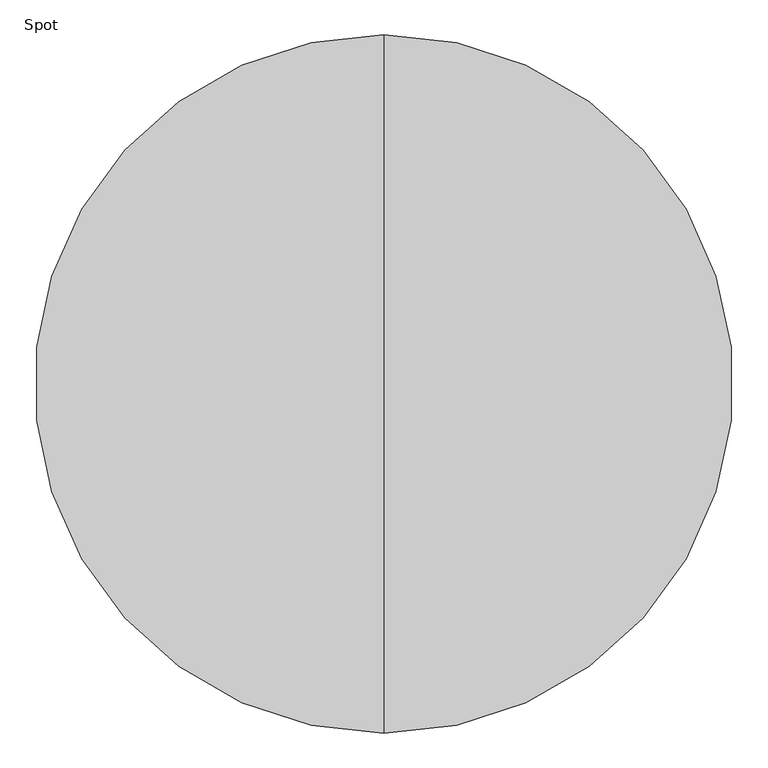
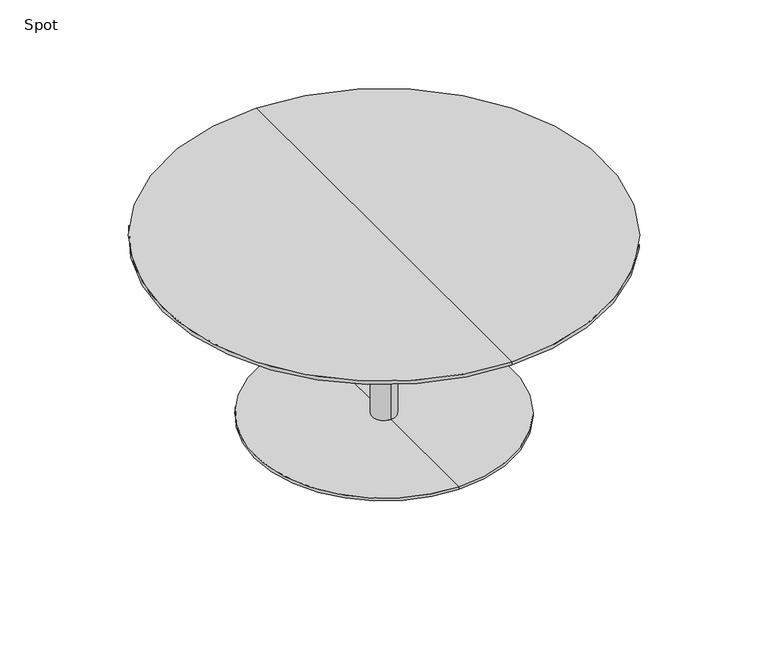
"""IFC4 building model written with IfcOpenShell, lengths in millimetres: furniture geometry, Spot : Bø120x52."""

from ifc_helpers import new_model, si_unit, frame, origin, place, context, project, spatial, polyline, circle_curve, source, transform, mapped, element, save
from ifc_brep_helpers import plane_surface, cylinder_surface, revolved_surface, advanced_brep


def spot_442aa7c8(model_context):
    return source(origin(), model_context, "Body", "AdvancedBrep", [
        advanced_brep(
        [(0.0, 600.0, 520.0), (0.0, -600.0, 520.0), (0.0, 0.0, 520.0), (0.0, 600.0, 510.25), (0.0, -600.0, 510.25), (0.0, 554.2823776, 498.0), (0.0, -554.2823776, 498.0), (0.0, 0.0, 498.0)],
        [
            (0, 1, circle_curve(frame((0.0, 0.0, 520.0), z_axis=(0.0, 0.0, 1.0), x_axis=(0.0, -1.0, 0.0)), 600.0)),
            (1, 2),
            (2, 0),
            (1, 0, circle_curve(frame((0.0, 0.0, 520.0), z_axis=(0.0, 0.0, 1.0), x_axis=(0.0, -1.0, 0.0)), 600.0)),
            (3, 4, circle_curve(frame((0.0, 0.0, 510.25), z_axis=(0.0, 0.0, 1.0), x_axis=(0.0, -1.0, 0.0)), 600.0)),
            (4, 1),
            (0, 3),
            (4, 3, circle_curve(frame((0.0, 0.0, 510.25), z_axis=(0.0, 0.0, 1.0), x_axis=(0.0, -1.0, 0.0)), 600.0)),
            (5, 6, circle_curve(frame((0.0, 0.0, 498.0), z_axis=(0.0, 0.0, 1.0), x_axis=(0.0, -1.0, 0.0)), 554.2823776)),
            (6, 4),
            (3, 5),
            (6, 5, circle_curve(frame((0.0, 0.0, 498.0), z_axis=(0.0, 0.0, 1.0), x_axis=(0.0, -1.0, 0.0)), 554.2823776)),
            (7, 6),
            (5, 7),
        ],
        [
            plane_surface(frame((0.0, 0.0, 520.0), z_axis=(0.0, 0.0, 1.0), x_axis=(0.0, -1.0, 0.0))),
            cylinder_surface(frame((0.0, 0.0, 600.0), z_axis=(0.0, 0.0, -1.0), x_axis=(0.0, -1.0, 0.0)), 600.0),
            revolved_surface(polyline([(0.0, -600.0, 510.25), (0.0, -554.2823776, 498.0)]), (0.0, 0.0, 600.0), (0.0, 0.0, -1.0)),
            plane_surface(frame((0.0, 0.0, 498.0), z_axis=(0.0, 0.0, -1.0), x_axis=(0.0, -1.0, 0.0))),
        ],
        [
            (0, [[1, 2, 3]]),
            (0, [[4, -3, -2]]),
            (1, [[5, 6, -1, 7]]),
            (1, [[8, -7, -4, -6]]),
            (2, [[9, 10, -5, 11]]),
            (2, [[12, -11, -8, -10]]),
            (3, [[13, -9, 14]]),
            (3, [[-14, -12, -13]]),
        ],
    ),
        advanced_brep(
        [(0.0, 32.0, 10.0), (0.0, -32.0, 10.0), (0.0, -32.0, 467.406916), (0.0, 32.0, 467.406916), (0.0, 350.0, 10.0), (0.0, -350.0, 10.0), (0.0, 350.0, 2.0), (0.0, -350.0, 2.0), (0.0, 0.0, 2.0), (0.0, 150.0, 498.0), (0.0, -150.0, 498.0), (0.0, 0.0, 498.0), (0.0, 150.0, 486.7213673), (0.0, -150.0, 486.7213673)],
        [
            (0, 1, circle_curve(frame((0.0, 0.0, 10.0), z_axis=(0.0, 0.0, 1.0), x_axis=(0.0, -1.0, 0.0)), 32.0)),
            (1, 2),
            (2, 3, circle_curve(frame((0.0, 0.0, 467.406916), z_axis=(0.0, 0.0, -1.0), x_axis=(0.0, -1.0, 0.0)), 32.0)),
            (3, 0),
            (1, 0, circle_curve(frame((0.0, 0.0, 10.0), z_axis=(0.0, 0.0, 1.0), x_axis=(0.0, -1.0, 0.0)), 32.0)),
            (3, 2, circle_curve(frame((0.0, 0.0, 467.406916), z_axis=(0.0, 0.0, -1.0), x_axis=(0.0, -1.0, 0.0)), 32.0)),
            (4, 5, circle_curve(frame((0.0, 0.0, 10.0), z_axis=(0.0, 0.0, 1.0), x_axis=(0.0, -1.0, 0.0)), 350.0)),
            (5, 1),
            (0, 4),
            (5, 4, circle_curve(frame((0.0, 0.0, 10.0), z_axis=(0.0, 0.0, 1.0), x_axis=(0.0, -1.0, 0.0)), 350.0)),
            (6, 7, circle_curve(frame((0.0, 0.0, 2.0), z_axis=(0.0, 0.0, 1.0), x_axis=(0.0, -1.0, 0.0)), 350.0)),
            (7, 5),
            (4, 6),
            (7, 6, circle_curve(frame((0.0, 0.0, 2.0), z_axis=(0.0, 0.0, 1.0), x_axis=(0.0, -1.0, 0.0)), 350.0)),
            (8, 7),
            (6, 8),
            (9, 10, circle_curve(frame((0.0, 0.0, 498.0), z_axis=(0.0, 0.0, 1.0), x_axis=(0.0, -1.0, 0.0)), 150.0)),
            (10, 11),
            (11, 9),
            (10, 9, circle_curve(frame((0.0, 0.0, 498.0), z_axis=(0.0, 0.0, 1.0), x_axis=(0.0, -1.0, 0.0)), 150.0)),
            (12, 13, circle_curve(frame((0.0, 0.0, 486.7213673), z_axis=(0.0, 0.0, 1.0), x_axis=(0.0, -1.0, 0.0)), 150.0)),
            (13, 10),
            (9, 12),
            (13, 12, circle_curve(frame((0.0, 0.0, 486.7213673), z_axis=(0.0, 0.0, 1.0), x_axis=(0.0, -1.0, 0.0)), 150.0)),
            (2, 13),
            (12, 3),
        ],
        [
            cylinder_surface(frame((0.0, 0.0, 860.0), z_axis=(0.0, 0.0, -1.0), x_axis=(0.0, -1.0, 0.0)), 32.0),
            plane_surface(frame((0.0, 0.0, 10.0), z_axis=(0.0, 0.0, 1.0), x_axis=(0.0, -1.0, 0.0))),
            cylinder_surface(frame((0.0, 0.0, 860.0), z_axis=(0.0, 0.0, -1.0), x_axis=(0.0, -1.0, 0.0)), 350.0),
            plane_surface(frame((0.0, 0.0, 2.0), z_axis=(0.0, 0.0, -1.0), x_axis=(0.0, -1.0, 0.0))),
            plane_surface(frame((0.0, 0.0, 498.0), z_axis=(0.0, 0.0, 1.0), x_axis=(0.0, -1.0, 0.0))),
            cylinder_surface(frame((0.0, 0.0, 860.0), z_axis=(0.0, 0.0, -1.0), x_axis=(0.0, -1.0, 0.0)), 150.0),
            revolved_surface(polyline([(0.0, -150.0, 486.7213673), (0.0, -32.0, 467.406916)]), (0.0, 0.0, 860.0), (0.0, 0.0, -1.0)),
        ],
        [
            (0, [[1, 2, 3, 4]]),
            (0, [[5, -4, 6, -2]]),
            (1, [[7, 8, -1, 9]]),
            (1, [[10, -9, -5, -8]]),
            (2, [[11, 12, -7, 13]]),
            (2, [[14, -13, -10, -12]]),
            (3, [[15, -11, 16]]),
            (3, [[-16, -14, -15]]),
            (4, [[17, 18, 19]]),
            (4, [[20, -19, -18]]),
            (5, [[21, 22, -17, 23]]),
            (5, [[24, -23, -20, -22]]),
            (6, [[-3, 25, -21, 26]]),
            (6, [[-6, -26, -24, -25]]),
        ],
    ),
    ])


if __name__ == "__main__":
    model = new_model("IFC4")
    model_context = context("Model", 3, world=origin())
    ifc_project = project(units=[si_unit("LENGTHUNIT", "METRE", prefix="MILLI")], contexts=[model_context])
    site = spatial("IfcSite", under=ifc_project)
    building = spatial("IfcBuilding", under=site)
    placement = place(None, origin())
    spot_shape = spot_442aa7c8(model_context)
    element("IfcFurniture", 1, ObjectType="Spot : Bø120x52", at=placement, inside=building, context=model_context, shape_type="MappedRepresentation", body=[
        mapped(spot_shape, transform((0.0, 0.0, 0.0), x_axis=(1.0, 0.0, 0.0), y_axis=(0.0, 1.0, 0.0), z_axis=(0.0, 0.0, 1.0))),
    ])
    save(model, "model.ifc")
